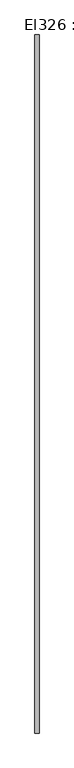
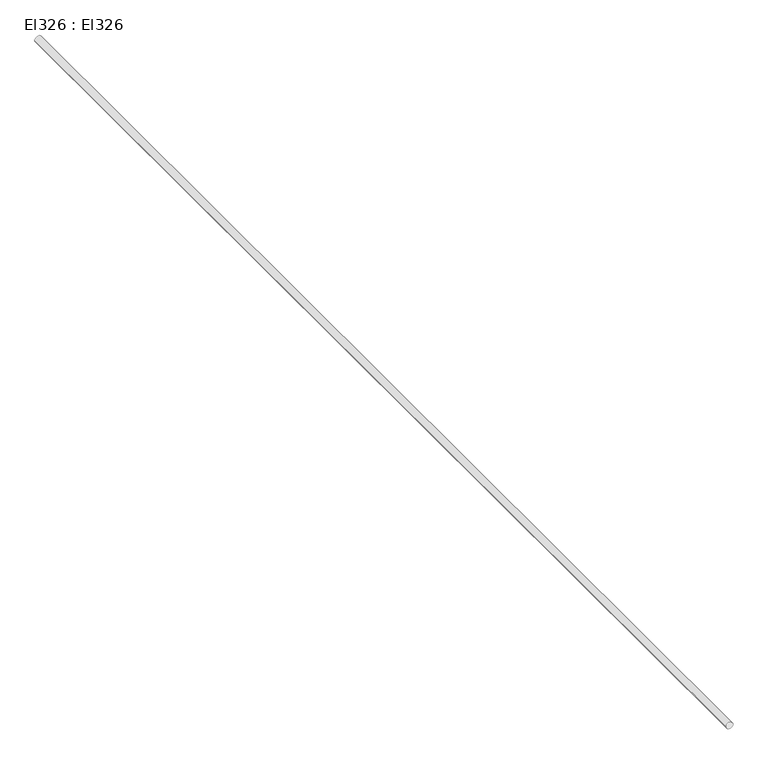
"""IFC4 building model written with IfcOpenShell, lengths in millimetres: cable carrier segment geometry, El326 : El326."""

from ifc_helpers import new_model, si_unit, point, frame, frame_2d, origin, place, context, project, spatial, circle_curve, trimmed, segment, composite_curve, outline, extrude, source, transform, mapped, element, save


def el326_el326_8c965c5c(model_context):
    return source(origin(), model_context, "Body", "SweptSolid", [
        extrude(outline(composite_curve([segment(trimmed(circle_curve(frame_2d((2950.0, 9750.0)), 9.5), [point((2950.0, 9740.5))], [point((2950.0, 9759.5))], False, "CARTESIAN"), True, "CONTINUOUS"), segment(trimmed(circle_curve(frame_2d((2950.0, 9750.0)), 9.5), [point((2950.0, 9759.5))], [point((2950.0, 9740.5))], False, "CARTESIAN"), True, "CONTINUOUS")], self_intersect=False)), frame((0.0, 3528.71, 0.0), z_axis=(0.0, 1.0, 0.0), x_axis=(0.0, 0.0, 1.0)), (0.0, 0.0, 1.0), 3214.99),
    ])


if __name__ == "__main__":
    model = new_model("IFC4")
    model_context = context("Model", 3, world=origin())
    ifc_project = project(units=[si_unit("LENGTHUNIT", "METRE", prefix="MILLI")], contexts=[model_context])
    site = spatial("IfcSite", under=ifc_project)
    building = spatial("IfcBuilding", under=site)
    placement = place(None, origin())
    el326_el326_shape = el326_el326_8c965c5c(model_context)
    element("IfcCableCarrierSegment", 1, ObjectType="El326 : El326", at=placement, inside=building, context=model_context, shape_type="MappedRepresentation", body=[
        mapped(el326_el326_shape, transform((0.0, 0.0, 0.0), x_axis=(1.0, 0.0, 0.0), y_axis=(0.0, 1.0, 0.0), z_axis=(0.0, 0.0, 1.0))),
    ])
    save(model, "model.ifc")
